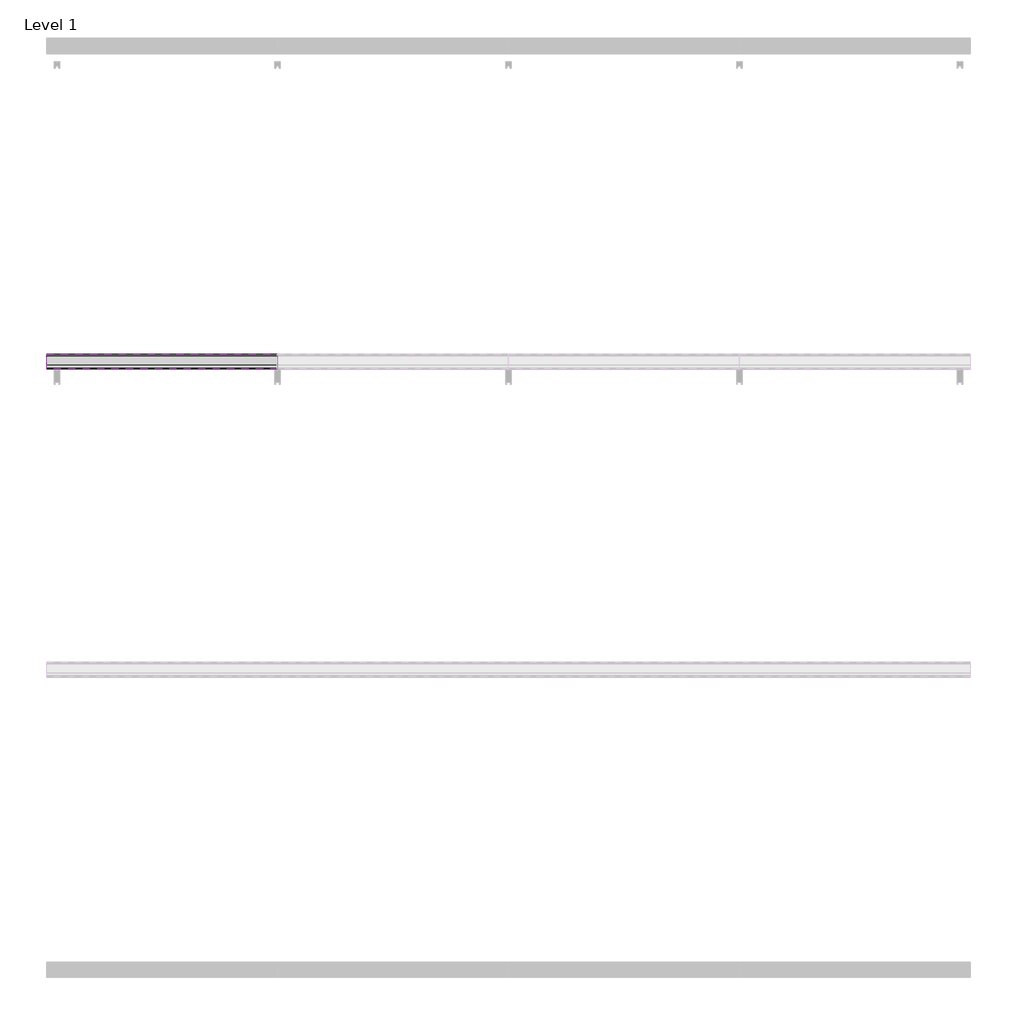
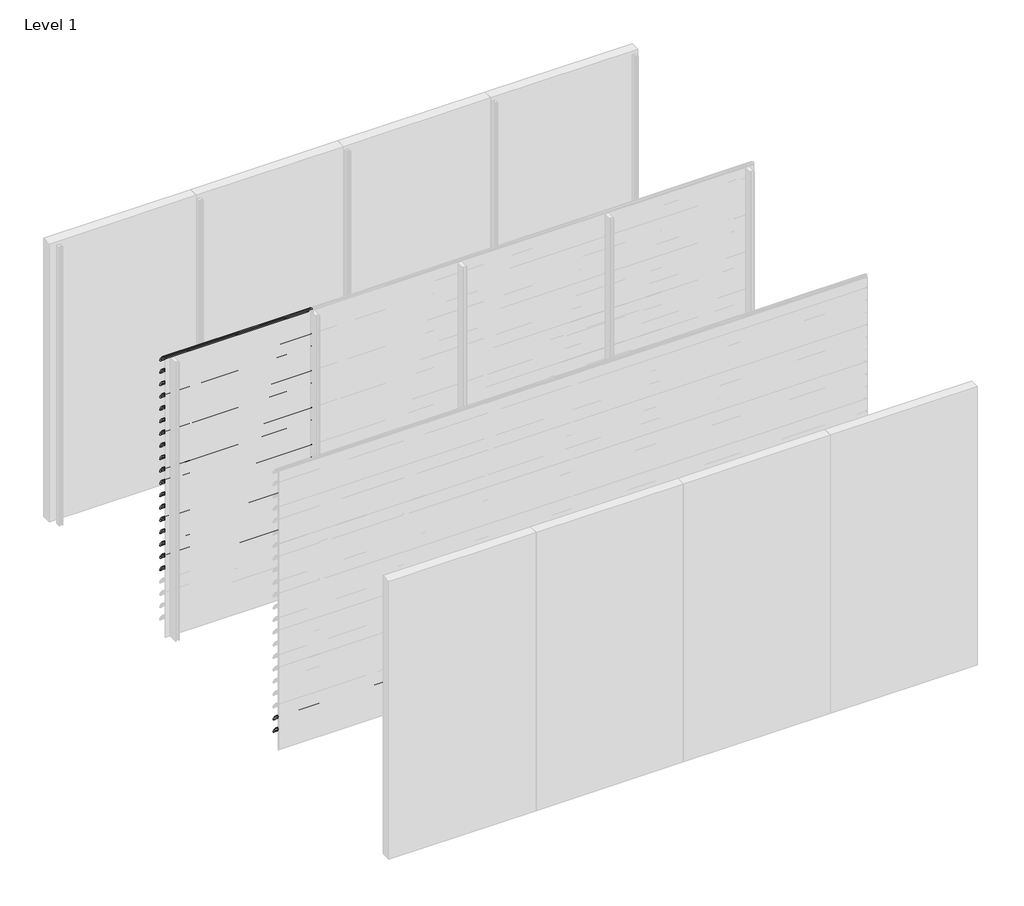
# One storey, part 37 of 57: 20 proxies.
"""IFC4 building model written with IfcOpenShell, lengths in millimetres."""

from ifc_helpers import new_model, si_unit, point, frame, frame_2d, origin, place, context, project, spatial, polyline, circle_curve, trimmed, segment, composite_curve, outline, extrude, element, save

model = new_model("IFC4")

# Units and contexts
model_context = context("Model", 3, world=origin())
ifc_project = project(units=[si_unit("LENGTHUNIT", "METRE", prefix="MILLI")], contexts=[model_context])

# Site, building, storey
site = spatial("IfcSite", under=ifc_project)
building = spatial("IfcBuilding", under=site)
storey = spatial("IfcBuildingStorey", under=building, Name="Level 1", Elevation=0.0)

# Proxies
placement = place(None, origin())
element("IfcBuildingElementProxy", 1, Name="Wall Sweeps", at=placement, inside=storey, context=model_context, shape_type="SweptSolid", body=[
    extrude(outline(composite_curve([segment(trimmed(circle_curve(frame_2d((-17993.7822526, 3016.4913792)), 4.2177474), [point((-17989.6985606, 3017.5462976))], [point((-17993.7822526, 3020.7091266))], False, "CARTESIAN"), True, "CONTINUOUS"), segment(trimmed(circle_curve(frame_2d((-18018.7150834, 2918.2536312)), 105.4456002), [point((-17993.7822526, 3020.7091266))], [point((-17971.7914298, 3012.6832099))], False, "CARTESIAN"), True, "CONTINUOUS"), segment(trimmed(circle_curve(frame_2d((-18061.7199745, 2864.0352476)), 173.7335887), [point((-17971.7914298, 3012.6832099))], [point((-17913.0720121, 2953.9637922))], False, "CARTESIAN"), True, "CONTINUOUS"), segment(trimmed(circle_curve(frame_2d((-18004.9297178, 2902.1860314)), 105.4456002), [point((-17913.0720121, 2953.9637922))], [point((-17903.6249616, 2931.4455765))], False, "CARTESIAN"), True, "CONTINUOUS"), segment(trimmed(circle_curve(frame_2d((-17907.809737, 2930.3307305)), 4.3307305), [point((-17903.6249616, 2931.4455765))], [point((-17909.0769196, 2926.189538))], False, "CARTESIAN"), True, "CONTINUOUS"), segment(polyline([(-17909.0769196, 2926.189538), (-17934.7401984, 2950.9722783)]), True, "CONTINUOUS"), segment(trimmed(circle_curve(frame_2d((-17931.3879574, 2953.2977626)), 4.079877), [point((-17934.7401984, 2950.9722783))], [point((-17930.7310597, 2957.3244091))], False, "CARTESIAN"), True, "CONTINUOUS"), segment(trimmed(circle_curve(frame_2d((-18014.6665585, 2935.2544323)), 86.7885467), [point((-17930.7310597, 2957.3244091))], [point((-17942.3028351, 2983.1683485))], True, "CARTESIAN"), True, "CONTINUOUS"), segment(polyline([(-17942.3028351, 2983.1683485), (-17940.7230099, 2985.9046861)]), True, "CONTINUOUS"), segment(trimmed(circle_curve(frame_2d((-18061.7199745, 2864.0352476)), 171.7335887), [point((-17940.7230099, 2985.9046861))], [point((-17972.7555872, 3010.9289618))], True, "CARTESIAN"), True, "CONTINUOUS"), segment(trimmed(circle_curve(frame_2d((-18018.7150834, 2918.2536312)), 103.4456002), [point((-17972.7555872, 3010.9289618))], [point((-17989.6985606, 3017.5462976))], True, "CARTESIAN"), True, "CONTINUOUS")], self_intersect=False)), frame((0.0, 0.0, 0.0), z_axis=(1.0, 0.0, 0.0), x_axis=(0.0, 1.0, 0.0)), (0.0, 0.0, 1.0), 1500.0),
])
element("IfcBuildingElementProxy", 2, Name="Wall Sweeps", at=placement, inside=storey, context=model_context, shape_type="SweptSolid", body=[
    extrude(outline(composite_curve([segment(trimmed(circle_curve(frame_2d((-17993.7822526, 2883.4913792)), 4.2177474), [point((-17989.6985606, 2884.5462976))], [point((-17993.7822526, 2887.7091266))], False, "CARTESIAN"), True, "CONTINUOUS"), segment(trimmed(circle_curve(frame_2d((-18018.7150834, 2785.2536312)), 105.4456002), [point((-17993.7822526, 2887.7091266))], [point((-17971.7914298, 2879.6832099))], False, "CARTESIAN"), True, "CONTINUOUS"), segment(trimmed(circle_curve(frame_2d((-18061.7199745, 2731.0352476)), 173.7335887), [point((-17971.7914298, 2879.6832099))], [point((-17913.0720121, 2820.9637922))], False, "CARTESIAN"), True, "CONTINUOUS"), segment(trimmed(circle_curve(frame_2d((-18004.9297178, 2769.1860314)), 105.4456002), [point((-17913.0720121, 2820.9637922))], [point((-17903.6249616, 2798.4455765))], False, "CARTESIAN"), True, "CONTINUOUS"), segment(trimmed(circle_curve(frame_2d((-17907.809737, 2797.3307305)), 4.3307305), [point((-17903.6249616, 2798.4455765))], [point((-17909.0769196, 2793.189538))], False, "CARTESIAN"), True, "CONTINUOUS"), segment(polyline([(-17909.0769196, 2793.189538), (-17934.7401984, 2817.9722783)]), True, "CONTINUOUS"), segment(trimmed(circle_curve(frame_2d((-17931.3879574, 2820.2977626)), 4.079877), [point((-17934.7401984, 2817.9722783))], [point((-17930.7310597, 2824.3244091))], False, "CARTESIAN"), True, "CONTINUOUS"), segment(trimmed(circle_curve(frame_2d((-18014.6665585, 2802.2544323)), 86.7885467), [point((-17930.7310597, 2824.3244091))], [point((-17942.3028351, 2850.1683485))], True, "CARTESIAN"), True, "CONTINUOUS"), segment(polyline([(-17942.3028351, 2850.1683485), (-17940.7230099, 2852.9046861)]), True, "CONTINUOUS"), segment(trimmed(circle_curve(frame_2d((-18061.7199745, 2731.0352476)), 171.7335887), [point((-17940.7230099, 2852.9046861))], [point((-17972.7555872, 2877.9289618))], True, "CARTESIAN"), True, "CONTINUOUS"), segment(trimmed(circle_curve(frame_2d((-18018.7150834, 2785.2536312)), 103.4456002), [point((-17972.7555872, 2877.9289618))], [point((-17989.6985606, 2884.5462976))], True, "CARTESIAN"), True, "CONTINUOUS")], self_intersect=False)), frame((0.0, 0.0, 0.0), z_axis=(1.0, 0.0, 0.0), x_axis=(0.0, 1.0, 0.0)), (0.0, 0.0, 1.0), 1500.0),
])
element("IfcBuildingElementProxy", 3, Name="Wall Sweeps", at=placement, inside=storey, context=model_context, shape_type="SweptSolid", body=[
    extrude(outline(composite_curve([segment(trimmed(circle_curve(frame_2d((-17993.7822526, 2750.4913792)), 4.2177474), [point((-17989.6985606, 2751.5462976))], [point((-17993.7822526, 2754.7091266))], False, "CARTESIAN"), True, "CONTINUOUS"), segment(trimmed(circle_curve(frame_2d((-18018.7150834, 2652.2536312)), 105.4456002), [point((-17993.7822526, 2754.7091266))], [point((-17971.7914298, 2746.6832099))], False, "CARTESIAN"), True, "CONTINUOUS"), segment(trimmed(circle_curve(frame_2d((-18061.7199745, 2598.0352476)), 173.7335887), [point((-17971.7914298, 2746.6832099))], [point((-17913.0720121, 2687.9637922))], False, "CARTESIAN"), True, "CONTINUOUS"), segment(trimmed(circle_curve(frame_2d((-18004.9297178, 2636.1860314)), 105.4456002), [point((-17913.0720121, 2687.9637922))], [point((-17903.6249616, 2665.4455765))], False, "CARTESIAN"), True, "CONTINUOUS"), segment(trimmed(circle_curve(frame_2d((-17907.809737, 2664.3307305)), 4.3307305), [point((-17903.6249616, 2665.4455765))], [point((-17909.0769196, 2660.189538))], False, "CARTESIAN"), True, "CONTINUOUS"), segment(polyline([(-17909.0769196, 2660.189538), (-17934.7401984, 2684.9722783)]), True, "CONTINUOUS"), segment(trimmed(circle_curve(frame_2d((-17931.3879574, 2687.2977626)), 4.079877), [point((-17934.7401984, 2684.9722783))], [point((-17930.7310597, 2691.3244091))], False, "CARTESIAN"), True, "CONTINUOUS"), segment(trimmed(circle_curve(frame_2d((-18014.6665585, 2669.2544323)), 86.7885467), [point((-17930.7310597, 2691.3244091))], [point((-17942.3028351, 2717.1683485))], True, "CARTESIAN"), True, "CONTINUOUS"), segment(polyline([(-17942.3028351, 2717.1683485), (-17940.7230099, 2719.9046861)]), True, "CONTINUOUS"), segment(trimmed(circle_curve(frame_2d((-18061.7199745, 2598.0352476)), 171.7335887), [point((-17940.7230099, 2719.9046861))], [point((-17972.7555872, 2744.9289618))], True, "CARTESIAN"), True, "CONTINUOUS"), segment(trimmed(circle_curve(frame_2d((-18018.7150834, 2652.2536312)), 103.4456002), [point((-17972.7555872, 2744.9289618))], [point((-17989.6985606, 2751.5462976))], True, "CARTESIAN"), True, "CONTINUOUS")], self_intersect=False)), frame((0.0, 0.0, 0.0), z_axis=(1.0, 0.0, 0.0), x_axis=(0.0, 1.0, 0.0)), (0.0, 0.0, 1.0), 1500.0),
])
element("IfcBuildingElementProxy", 4, Name="Wall Sweeps", at=placement, inside=storey, context=model_context, shape_type="SweptSolid", body=[
    extrude(outline(composite_curve([segment(trimmed(circle_curve(frame_2d((-17993.7822526, 2617.4913792)), 4.2177474), [point((-17989.6985606, 2618.5462976))], [point((-17993.7822526, 2621.7091266))], False, "CARTESIAN"), True, "CONTINUOUS"), segment(trimmed(circle_curve(frame_2d((-18018.7150834, 2519.2536312)), 105.4456002), [point((-17993.7822526, 2621.7091266))], [point((-17971.7914298, 2613.6832099))], False, "CARTESIAN"), True, "CONTINUOUS"), segment(trimmed(circle_curve(frame_2d((-18061.7199745, 2465.0352476)), 173.7335887), [point((-17971.7914298, 2613.6832099))], [point((-17913.0720121, 2554.9637922))], False, "CARTESIAN"), True, "CONTINUOUS"), segment(trimmed(circle_curve(frame_2d((-18004.9297178, 2503.1860314)), 105.4456002), [point((-17913.0720121, 2554.9637922))], [point((-17903.6249616, 2532.4455765))], False, "CARTESIAN"), True, "CONTINUOUS"), segment(trimmed(circle_curve(frame_2d((-17907.809737, 2531.3307305)), 4.3307305), [point((-17903.6249616, 2532.4455765))], [point((-17909.0769196, 2527.189538))], False, "CARTESIAN"), True, "CONTINUOUS"), segment(polyline([(-17909.0769196, 2527.189538), (-17934.7401984, 2551.9722783)]), True, "CONTINUOUS"), segment(trimmed(circle_curve(frame_2d((-17931.3879574, 2554.2977626)), 4.079877), [point((-17934.7401984, 2551.9722783))], [point((-17930.7310597, 2558.3244091))], False, "CARTESIAN"), True, "CONTINUOUS"), segment(trimmed(circle_curve(frame_2d((-18014.6665585, 2536.2544323)), 86.7885467), [point((-17930.7310597, 2558.3244091))], [point((-17942.3028351, 2584.1683485))], True, "CARTESIAN"), True, "CONTINUOUS"), segment(polyline([(-17942.3028351, 2584.1683485), (-17940.7230099, 2586.9046861)]), True, "CONTINUOUS"), segment(trimmed(circle_curve(frame_2d((-18061.7199745, 2465.0352476)), 171.7335887), [point((-17940.7230099, 2586.9046861))], [point((-17972.7555872, 2611.9289618))], True, "CARTESIAN"), True, "CONTINUOUS"), segment(trimmed(circle_curve(frame_2d((-18018.7150834, 2519.2536312)), 103.4456002), [point((-17972.7555872, 2611.9289618))], [point((-17989.6985606, 2618.5462976))], True, "CARTESIAN"), True, "CONTINUOUS")], self_intersect=False)), frame((0.0, 0.0, 0.0), z_axis=(1.0, 0.0, 0.0), x_axis=(0.0, 1.0, 0.0)), (0.0, 0.0, 1.0), 1500.0),
])
element("IfcBuildingElementProxy", 5, Name="Wall Sweeps", at=placement, inside=storey, context=model_context, shape_type="SweptSolid", body=[
    extrude(outline(composite_curve([segment(trimmed(circle_curve(frame_2d((-17993.7822526, 2484.4913792)), 4.2177474), [point((-17989.6985606, 2485.5462976))], [point((-17993.7822526, 2488.7091266))], False, "CARTESIAN"), True, "CONTINUOUS"), segment(trimmed(circle_curve(frame_2d((-18018.7150834, 2386.2536312)), 105.4456002), [point((-17993.7822526, 2488.7091266))], [point((-17971.7914298, 2480.6832099))], False, "CARTESIAN"), True, "CONTINUOUS"), segment(trimmed(circle_curve(frame_2d((-18061.7199745, 2332.0352476)), 173.7335887), [point((-17971.7914298, 2480.6832099))], [point((-17913.0720121, 2421.9637922))], False, "CARTESIAN"), True, "CONTINUOUS"), segment(trimmed(circle_curve(frame_2d((-18004.9297178, 2370.1860314)), 105.4456002), [point((-17913.0720121, 2421.9637922))], [point((-17903.6249616, 2399.4455765))], False, "CARTESIAN"), True, "CONTINUOUS"), segment(trimmed(circle_curve(frame_2d((-17907.809737, 2398.3307305)), 4.3307305), [point((-17903.6249616, 2399.4455765))], [point((-17909.0769196, 2394.189538))], False, "CARTESIAN"), True, "CONTINUOUS"), segment(polyline([(-17909.0769196, 2394.189538), (-17934.7401984, 2418.9722783)]), True, "CONTINUOUS"), segment(trimmed(circle_curve(frame_2d((-17931.3879574, 2421.2977626)), 4.079877), [point((-17934.7401984, 2418.9722783))], [point((-17930.7310597, 2425.3244091))], False, "CARTESIAN"), True, "CONTINUOUS"), segment(trimmed(circle_curve(frame_2d((-18014.6665585, 2403.2544323)), 86.7885467), [point((-17930.7310597, 2425.3244091))], [point((-17942.3028351, 2451.1683485))], True, "CARTESIAN"), True, "CONTINUOUS"), segment(polyline([(-17942.3028351, 2451.1683485), (-17940.7230099, 2453.9046861)]), True, "CONTINUOUS"), segment(trimmed(circle_curve(frame_2d((-18061.7199745, 2332.0352476)), 171.7335887), [point((-17940.7230099, 2453.9046861))], [point((-17972.7555872, 2478.9289618))], True, "CARTESIAN"), True, "CONTINUOUS"), segment(trimmed(circle_curve(frame_2d((-18018.7150834, 2386.2536312)), 103.4456002), [point((-17972.7555872, 2478.9289618))], [point((-17989.6985606, 2485.5462976))], True, "CARTESIAN"), True, "CONTINUOUS")], self_intersect=False)), frame((0.0, 0.0, 0.0), z_axis=(1.0, 0.0, 0.0), x_axis=(0.0, 1.0, 0.0)), (0.0, 0.0, 1.0), 1500.0),
])
element("IfcBuildingElementProxy", 6, Name="Wall Sweeps", at=placement, inside=storey, context=model_context, shape_type="SweptSolid", body=[
    extrude(outline(composite_curve([segment(trimmed(circle_curve(frame_2d((-17993.7822526, 2351.4913792)), 4.2177474), [point((-17989.6985606, 2352.5462976))], [point((-17993.7822526, 2355.7091266))], False, "CARTESIAN"), True, "CONTINUOUS"), segment(trimmed(circle_curve(frame_2d((-18018.7150834, 2253.2536312)), 105.4456002), [point((-17993.7822526, 2355.7091266))], [point((-17971.7914298, 2347.6832099))], False, "CARTESIAN"), True, "CONTINUOUS"), segment(trimmed(circle_curve(frame_2d((-18061.7199745, 2199.0352476)), 173.7335887), [point((-17971.7914298, 2347.6832099))], [point((-17913.0720121, 2288.9637922))], False, "CARTESIAN"), True, "CONTINUOUS"), segment(trimmed(circle_curve(frame_2d((-18004.9297178, 2237.1860314)), 105.4456002), [point((-17913.0720121, 2288.9637922))], [point((-17903.6249616, 2266.4455765))], False, "CARTESIAN"), True, "CONTINUOUS"), segment(trimmed(circle_curve(frame_2d((-17907.809737, 2265.3307305)), 4.3307305), [point((-17903.6249616, 2266.4455765))], [point((-17909.0769196, 2261.189538))], False, "CARTESIAN"), True, "CONTINUOUS"), segment(polyline([(-17909.0769196, 2261.189538), (-17934.7401984, 2285.9722783)]), True, "CONTINUOUS"), segment(trimmed(circle_curve(frame_2d((-17931.3879574, 2288.2977626)), 4.079877), [point((-17934.7401984, 2285.9722783))], [point((-17930.7310597, 2292.3244091))], False, "CARTESIAN"), True, "CONTINUOUS"), segment(trimmed(circle_curve(frame_2d((-18014.6665585, 2270.2544323)), 86.7885467), [point((-17930.7310597, 2292.3244091))], [point((-17942.3028351, 2318.1683485))], True, "CARTESIAN"), True, "CONTINUOUS"), segment(polyline([(-17942.3028351, 2318.1683485), (-17940.7230099, 2320.9046861)]), True, "CONTINUOUS"), segment(trimmed(circle_curve(frame_2d((-18061.7199745, 2199.0352476)), 171.7335887), [point((-17940.7230099, 2320.9046861))], [point((-17972.7555872, 2345.9289618))], True, "CARTESIAN"), True, "CONTINUOUS"), segment(trimmed(circle_curve(frame_2d((-18018.7150834, 2253.2536312)), 103.4456002), [point((-17972.7555872, 2345.9289618))], [point((-17989.6985606, 2352.5462976))], True, "CARTESIAN"), True, "CONTINUOUS")], self_intersect=False)), frame((0.0, 0.0, 0.0), z_axis=(1.0, 0.0, 0.0), x_axis=(0.0, 1.0, 0.0)), (0.0, 0.0, 1.0), 1500.0),
])
element("IfcBuildingElementProxy", 7, Name="Wall Sweeps", at=placement, inside=storey, context=model_context, shape_type="SweptSolid", body=[
    extrude(outline(composite_curve([segment(trimmed(circle_curve(frame_2d((-17993.7822526, 2218.4913792)), 4.2177474), [point((-17989.6985606, 2219.5462976))], [point((-17993.7822526, 2222.7091266))], False, "CARTESIAN"), True, "CONTINUOUS"), segment(trimmed(circle_curve(frame_2d((-18018.7150834, 2120.2536312)), 105.4456002), [point((-17993.7822526, 2222.7091266))], [point((-17971.7914298, 2214.6832099))], False, "CARTESIAN"), True, "CONTINUOUS"), segment(trimmed(circle_curve(frame_2d((-18061.7199745, 2066.0352476)), 173.7335887), [point((-17971.7914298, 2214.6832099))], [point((-17913.0720121, 2155.9637922))], False, "CARTESIAN"), True, "CONTINUOUS"), segment(trimmed(circle_curve(frame_2d((-18004.9297178, 2104.1860314)), 105.4456002), [point((-17913.0720121, 2155.9637922))], [point((-17903.6249616, 2133.4455765))], False, "CARTESIAN"), True, "CONTINUOUS"), segment(trimmed(circle_curve(frame_2d((-17907.809737, 2132.3307305)), 4.3307305), [point((-17903.6249616, 2133.4455765))], [point((-17909.0769196, 2128.189538))], False, "CARTESIAN"), True, "CONTINUOUS"), segment(polyline([(-17909.0769196, 2128.189538), (-17934.7401984, 2152.9722783)]), True, "CONTINUOUS"), segment(trimmed(circle_curve(frame_2d((-17931.3879574, 2155.2977626)), 4.079877), [point((-17934.7401984, 2152.9722783))], [point((-17930.7310597, 2159.3244091))], False, "CARTESIAN"), True, "CONTINUOUS"), segment(trimmed(circle_curve(frame_2d((-18014.6665585, 2137.2544323)), 86.7885467), [point((-17930.7310597, 2159.3244091))], [point((-17942.3028351, 2185.1683485))], True, "CARTESIAN"), True, "CONTINUOUS"), segment(polyline([(-17942.3028351, 2185.1683485), (-17940.7230099, 2187.9046861)]), True, "CONTINUOUS"), segment(trimmed(circle_curve(frame_2d((-18061.7199745, 2066.0352476)), 171.7335887), [point((-17940.7230099, 2187.9046861))], [point((-17972.7555872, 2212.9289618))], True, "CARTESIAN"), True, "CONTINUOUS"), segment(trimmed(circle_curve(frame_2d((-18018.7150834, 2120.2536312)), 103.4456002), [point((-17972.7555872, 2212.9289618))], [point((-17989.6985606, 2219.5462976))], True, "CARTESIAN"), True, "CONTINUOUS")], self_intersect=False)), frame((0.0, 0.0, 0.0), z_axis=(1.0, 0.0, 0.0), x_axis=(0.0, 1.0, 0.0)), (0.0, 0.0, 1.0), 1500.0),
])
element("IfcBuildingElementProxy", 8, Name="Wall Sweeps", at=placement, inside=storey, context=model_context, shape_type="SweptSolid", body=[
    extrude(outline(composite_curve([segment(trimmed(circle_curve(frame_2d((-17993.7822526, 2085.4913792)), 4.2177474), [point((-17989.6985606, 2086.5462976))], [point((-17993.7822526, 2089.7091266))], False, "CARTESIAN"), True, "CONTINUOUS"), segment(trimmed(circle_curve(frame_2d((-18018.7150834, 1987.2536312)), 105.4456002), [point((-17993.7822526, 2089.7091266))], [point((-17971.7914298, 2081.6832099))], False, "CARTESIAN"), True, "CONTINUOUS"), segment(trimmed(circle_curve(frame_2d((-18061.7199745, 1933.0352476)), 173.7335887), [point((-17971.7914298, 2081.6832099))], [point((-17913.0720121, 2022.9637922))], False, "CARTESIAN"), True, "CONTINUOUS"), segment(trimmed(circle_curve(frame_2d((-18004.9297178, 1971.1860314)), 105.4456002), [point((-17913.0720121, 2022.9637922))], [point((-17903.6249616, 2000.4455765))], False, "CARTESIAN"), True, "CONTINUOUS"), segment(trimmed(circle_curve(frame_2d((-17907.809737, 1999.3307305)), 4.3307305), [point((-17903.6249616, 2000.4455765))], [point((-17909.0769196, 1995.189538))], False, "CARTESIAN"), True, "CONTINUOUS"), segment(polyline([(-17909.0769196, 1995.189538), (-17934.7401984, 2019.9722783)]), True, "CONTINUOUS"), segment(trimmed(circle_curve(frame_2d((-17931.3879574, 2022.2977626)), 4.079877), [point((-17934.7401984, 2019.9722783))], [point((-17930.7310597, 2026.3244091))], False, "CARTESIAN"), True, "CONTINUOUS"), segment(trimmed(circle_curve(frame_2d((-18014.6665585, 2004.2544323)), 86.7885467), [point((-17930.7310597, 2026.3244091))], [point((-17942.3028351, 2052.1683485))], True, "CARTESIAN"), True, "CONTINUOUS"), segment(polyline([(-17942.3028351, 2052.1683485), (-17940.7230099, 2054.9046861)]), True, "CONTINUOUS"), segment(trimmed(circle_curve(frame_2d((-18061.7199745, 1933.0352476)), 171.7335887), [point((-17940.7230099, 2054.9046861))], [point((-17972.7555872, 2079.9289618))], True, "CARTESIAN"), True, "CONTINUOUS"), segment(trimmed(circle_curve(frame_2d((-18018.7150834, 1987.2536312)), 103.4456002), [point((-17972.7555872, 2079.9289618))], [point((-17989.6985606, 2086.5462976))], True, "CARTESIAN"), True, "CONTINUOUS")], self_intersect=False)), frame((0.0, 0.0, 0.0), z_axis=(1.0, 0.0, 0.0), x_axis=(0.0, 1.0, 0.0)), (0.0, 0.0, 1.0), 1500.0),
])
element("IfcBuildingElementProxy", 9, Name="Wall Sweeps", at=placement, inside=storey, context=model_context, shape_type="SweptSolid", body=[
    extrude(outline(composite_curve([segment(trimmed(circle_curve(frame_2d((-17993.7822526, 1952.4913792)), 4.2177474), [point((-17989.6985606, 1953.5462976))], [point((-17993.7822526, 1956.7091266))], False, "CARTESIAN"), True, "CONTINUOUS"), segment(trimmed(circle_curve(frame_2d((-18018.7150834, 1854.2536312)), 105.4456002), [point((-17993.7822526, 1956.7091266))], [point((-17971.7914298, 1948.6832099))], False, "CARTESIAN"), True, "CONTINUOUS"), segment(trimmed(circle_curve(frame_2d((-18061.7199745, 1800.0352476)), 173.7335887), [point((-17971.7914298, 1948.6832099))], [point((-17913.0720121, 1889.9637922))], False, "CARTESIAN"), True, "CONTINUOUS"), segment(trimmed(circle_curve(frame_2d((-18004.9297178, 1838.1860314)), 105.4456002), [point((-17913.0720121, 1889.9637922))], [point((-17903.6249616, 1867.4455765))], False, "CARTESIAN"), True, "CONTINUOUS"), segment(trimmed(circle_curve(frame_2d((-17907.809737, 1866.3307305)), 4.3307305), [point((-17903.6249616, 1867.4455765))], [point((-17909.0769196, 1862.189538))], False, "CARTESIAN"), True, "CONTINUOUS"), segment(polyline([(-17909.0769196, 1862.189538), (-17934.7401984, 1886.9722783)]), True, "CONTINUOUS"), segment(trimmed(circle_curve(frame_2d((-17931.3879574, 1889.2977626)), 4.079877), [point((-17934.7401984, 1886.9722783))], [point((-17930.7310597, 1893.3244091))], False, "CARTESIAN"), True, "CONTINUOUS"), segment(trimmed(circle_curve(frame_2d((-18014.6665585, 1871.2544323)), 86.7885467), [point((-17930.7310597, 1893.3244091))], [point((-17942.3028351, 1919.1683485))], True, "CARTESIAN"), True, "CONTINUOUS"), segment(polyline([(-17942.3028351, 1919.1683485), (-17940.7230099, 1921.9046861)]), True, "CONTINUOUS"), segment(trimmed(circle_curve(frame_2d((-18061.7199745, 1800.0352476)), 171.7335887), [point((-17940.7230099, 1921.9046861))], [point((-17972.7555872, 1946.9289618))], True, "CARTESIAN"), True, "CONTINUOUS"), segment(trimmed(circle_curve(frame_2d((-18018.7150834, 1854.2536312)), 103.4456002), [point((-17972.7555872, 1946.9289618))], [point((-17989.6985606, 1953.5462976))], True, "CARTESIAN"), True, "CONTINUOUS")], self_intersect=False)), frame((0.0, 0.0, 0.0), z_axis=(1.0, 0.0, 0.0), x_axis=(0.0, 1.0, 0.0)), (0.0, 0.0, 1.0), 1500.0),
])
element("IfcBuildingElementProxy", 10, Name="Wall Sweeps", at=placement, inside=storey, context=model_context, shape_type="SweptSolid", body=[
    extrude(outline(composite_curve([segment(trimmed(circle_curve(frame_2d((-17993.7822526, 1819.4913792)), 4.2177474), [point((-17989.6985606, 1820.5462976))], [point((-17993.7822526, 1823.7091266))], False, "CARTESIAN"), True, "CONTINUOUS"), segment(trimmed(circle_curve(frame_2d((-18018.7150834, 1721.2536312)), 105.4456002), [point((-17993.7822526, 1823.7091266))], [point((-17971.7914298, 1815.6832099))], False, "CARTESIAN"), True, "CONTINUOUS"), segment(trimmed(circle_curve(frame_2d((-18061.7199745, 1667.0352476)), 173.7335887), [point((-17971.7914298, 1815.6832099))], [point((-17913.0720121, 1756.9637922))], False, "CARTESIAN"), True, "CONTINUOUS"), segment(trimmed(circle_curve(frame_2d((-18004.9297178, 1705.1860314)), 105.4456002), [point((-17913.0720121, 1756.9637922))], [point((-17903.6249616, 1734.4455765))], False, "CARTESIAN"), True, "CONTINUOUS"), segment(trimmed(circle_curve(frame_2d((-17907.809737, 1733.3307305)), 4.3307305), [point((-17903.6249616, 1734.4455765))], [point((-17909.0769196, 1729.189538))], False, "CARTESIAN"), True, "CONTINUOUS"), segment(polyline([(-17909.0769196, 1729.189538), (-17934.7401984, 1753.9722783)]), True, "CONTINUOUS"), segment(trimmed(circle_curve(frame_2d((-17931.3879574, 1756.2977626)), 4.079877), [point((-17934.7401984, 1753.9722783))], [point((-17930.7310597, 1760.3244091))], False, "CARTESIAN"), True, "CONTINUOUS"), segment(trimmed(circle_curve(frame_2d((-18014.6665585, 1738.2544323)), 86.7885467), [point((-17930.7310597, 1760.3244091))], [point((-17942.3028351, 1786.1683485))], True, "CARTESIAN"), True, "CONTINUOUS"), segment(polyline([(-17942.3028351, 1786.1683485), (-17940.7230099, 1788.9046861)]), True, "CONTINUOUS"), segment(trimmed(circle_curve(frame_2d((-18061.7199745, 1667.0352476)), 171.7335887), [point((-17940.7230099, 1788.9046861))], [point((-17972.7555872, 1813.9289618))], True, "CARTESIAN"), True, "CONTINUOUS"), segment(trimmed(circle_curve(frame_2d((-18018.7150834, 1721.2536312)), 103.4456002), [point((-17972.7555872, 1813.9289618))], [point((-17989.6985606, 1820.5462976))], True, "CARTESIAN"), True, "CONTINUOUS")], self_intersect=False)), frame((0.0, 0.0, 0.0), z_axis=(1.0, 0.0, 0.0), x_axis=(0.0, 1.0, 0.0)), (0.0, 0.0, 1.0), 1500.0),
])
element("IfcBuildingElementProxy", 11, Name="Wall Sweeps", at=placement, inside=storey, context=model_context, shape_type="SweptSolid", body=[
    extrude(outline(composite_curve([segment(trimmed(circle_curve(frame_2d((-17993.7822526, 1686.4913792)), 4.2177474), [point((-17989.6985606, 1687.5462976))], [point((-17993.7822526, 1690.7091266))], False, "CARTESIAN"), True, "CONTINUOUS"), segment(trimmed(circle_curve(frame_2d((-18018.7150834, 1588.2536312)), 105.4456002), [point((-17993.7822526, 1690.7091266))], [point((-17971.7914298, 1682.6832099))], False, "CARTESIAN"), True, "CONTINUOUS"), segment(trimmed(circle_curve(frame_2d((-18061.7199745, 1534.0352476)), 173.7335887), [point((-17971.7914298, 1682.6832099))], [point((-17913.0720121, 1623.9637922))], False, "CARTESIAN"), True, "CONTINUOUS"), segment(trimmed(circle_curve(frame_2d((-18004.9297178, 1572.1860314)), 105.4456002), [point((-17913.0720121, 1623.9637922))], [point((-17903.6249616, 1601.4455765))], False, "CARTESIAN"), True, "CONTINUOUS"), segment(trimmed(circle_curve(frame_2d((-17907.809737, 1600.3307305)), 4.3307305), [point((-17903.6249616, 1601.4455765))], [point((-17909.0769196, 1596.189538))], False, "CARTESIAN"), True, "CONTINUOUS"), segment(polyline([(-17909.0769196, 1596.189538), (-17934.7401984, 1620.9722783)]), True, "CONTINUOUS"), segment(trimmed(circle_curve(frame_2d((-17931.3879574, 1623.2977626)), 4.079877), [point((-17934.7401984, 1620.9722783))], [point((-17930.7310597, 1627.3244091))], False, "CARTESIAN"), True, "CONTINUOUS"), segment(trimmed(circle_curve(frame_2d((-18014.6665585, 1605.2544323)), 86.7885467), [point((-17930.7310597, 1627.3244091))], [point((-17942.3028351, 1653.1683485))], True, "CARTESIAN"), True, "CONTINUOUS"), segment(polyline([(-17942.3028351, 1653.1683485), (-17940.7230099, 1655.9046861)]), True, "CONTINUOUS"), segment(trimmed(circle_curve(frame_2d((-18061.7199745, 1534.0352476)), 171.7335887), [point((-17940.7230099, 1655.9046861))], [point((-17972.7555872, 1680.9289618))], True, "CARTESIAN"), True, "CONTINUOUS"), segment(trimmed(circle_curve(frame_2d((-18018.7150834, 1588.2536312)), 103.4456002), [point((-17972.7555872, 1680.9289618))], [point((-17989.6985606, 1687.5462976))], True, "CARTESIAN"), True, "CONTINUOUS")], self_intersect=False)), frame((0.0, 0.0, 0.0), z_axis=(1.0, 0.0, 0.0), x_axis=(0.0, 1.0, 0.0)), (0.0, 0.0, 1.0), 1500.0),
])
element("IfcBuildingElementProxy", 12, Name="Wall Sweeps", at=placement, inside=storey, context=model_context, shape_type="SweptSolid", body=[
    extrude(outline(composite_curve([segment(trimmed(circle_curve(frame_2d((-17993.7822526, 1553.4913792)), 4.2177474), [point((-17989.6985606, 1554.5462976))], [point((-17993.7822526, 1557.7091266))], False, "CARTESIAN"), True, "CONTINUOUS"), segment(trimmed(circle_curve(frame_2d((-18018.7150834, 1455.2536312)), 105.4456002), [point((-17993.7822526, 1557.7091266))], [point((-17971.7914298, 1549.6832099))], False, "CARTESIAN"), True, "CONTINUOUS"), segment(trimmed(circle_curve(frame_2d((-18061.7199745, 1401.0352476)), 173.7335887), [point((-17971.7914298, 1549.6832099))], [point((-17913.0720121, 1490.9637922))], False, "CARTESIAN"), True, "CONTINUOUS"), segment(trimmed(circle_curve(frame_2d((-18004.9297178, 1439.1860314)), 105.4456002), [point((-17913.0720121, 1490.9637922))], [point((-17903.6249616, 1468.4455765))], False, "CARTESIAN"), True, "CONTINUOUS"), segment(trimmed(circle_curve(frame_2d((-17907.809737, 1467.3307305)), 4.3307305), [point((-17903.6249616, 1468.4455765))], [point((-17909.0769196, 1463.189538))], False, "CARTESIAN"), True, "CONTINUOUS"), segment(polyline([(-17909.0769196, 1463.189538), (-17934.7401984, 1487.9722783)]), True, "CONTINUOUS"), segment(trimmed(circle_curve(frame_2d((-17931.3879574, 1490.2977626)), 4.079877), [point((-17934.7401984, 1487.9722783))], [point((-17930.7310597, 1494.3244091))], False, "CARTESIAN"), True, "CONTINUOUS"), segment(trimmed(circle_curve(frame_2d((-18014.6665585, 1472.2544323)), 86.7885467), [point((-17930.7310597, 1494.3244091))], [point((-17942.3028351, 1520.1683485))], True, "CARTESIAN"), True, "CONTINUOUS"), segment(polyline([(-17942.3028351, 1520.1683485), (-17940.7230099, 1522.9046861)]), True, "CONTINUOUS"), segment(trimmed(circle_curve(frame_2d((-18061.7199745, 1401.0352476)), 171.7335887), [point((-17940.7230099, 1522.9046861))], [point((-17972.7555872, 1547.9289618))], True, "CARTESIAN"), True, "CONTINUOUS"), segment(trimmed(circle_curve(frame_2d((-18018.7150834, 1455.2536312)), 103.4456002), [point((-17972.7555872, 1547.9289618))], [point((-17989.6985606, 1554.5462976))], True, "CARTESIAN"), True, "CONTINUOUS")], self_intersect=False)), frame((0.0, 0.0, 0.0), z_axis=(1.0, 0.0, 0.0), x_axis=(0.0, 1.0, 0.0)), (0.0, 0.0, 1.0), 1500.0),
])
element("IfcBuildingElementProxy", 13, Name="Wall Sweeps", at=placement, inside=storey, context=model_context, shape_type="SweptSolid", body=[
    extrude(outline(composite_curve([segment(trimmed(circle_curve(frame_2d((-17993.7822526, 1420.4913792)), 4.2177474), [point((-17989.6985606, 1421.5462976))], [point((-17993.7822526, 1424.7091266))], False, "CARTESIAN"), True, "CONTINUOUS"), segment(trimmed(circle_curve(frame_2d((-18018.7150834, 1322.2536312)), 105.4456002), [point((-17993.7822526, 1424.7091266))], [point((-17971.7914298, 1416.6832099))], False, "CARTESIAN"), True, "CONTINUOUS"), segment(trimmed(circle_curve(frame_2d((-18061.7199745, 1268.0352476)), 173.7335887), [point((-17971.7914298, 1416.6832099))], [point((-17913.0720121, 1357.9637922))], False, "CARTESIAN"), True, "CONTINUOUS"), segment(trimmed(circle_curve(frame_2d((-18004.9297178, 1306.1860314)), 105.4456002), [point((-17913.0720121, 1357.9637922))], [point((-17903.6249616, 1335.4455765))], False, "CARTESIAN"), True, "CONTINUOUS"), segment(trimmed(circle_curve(frame_2d((-17907.809737, 1334.3307305)), 4.3307305), [point((-17903.6249616, 1335.4455765))], [point((-17909.0769196, 1330.189538))], False, "CARTESIAN"), True, "CONTINUOUS"), segment(polyline([(-17909.0769196, 1330.189538), (-17934.7401984, 1354.9722783)]), True, "CONTINUOUS"), segment(trimmed(circle_curve(frame_2d((-17931.3879574, 1357.2977626)), 4.079877), [point((-17934.7401984, 1354.9722783))], [point((-17930.7310597, 1361.3244091))], False, "CARTESIAN"), True, "CONTINUOUS"), segment(trimmed(circle_curve(frame_2d((-18014.6665585, 1339.2544323)), 86.7885467), [point((-17930.7310597, 1361.3244091))], [point((-17942.3028351, 1387.1683485))], True, "CARTESIAN"), True, "CONTINUOUS"), segment(polyline([(-17942.3028351, 1387.1683485), (-17940.7230099, 1389.9046861)]), True, "CONTINUOUS"), segment(trimmed(circle_curve(frame_2d((-18061.7199745, 1268.0352476)), 171.7335887), [point((-17940.7230099, 1389.9046861))], [point((-17972.7555872, 1414.9289618))], True, "CARTESIAN"), True, "CONTINUOUS"), segment(trimmed(circle_curve(frame_2d((-18018.7150834, 1322.2536312)), 103.4456002), [point((-17972.7555872, 1414.9289618))], [point((-17989.6985606, 1421.5462976))], True, "CARTESIAN"), True, "CONTINUOUS")], self_intersect=False)), frame((0.0, 0.0, 0.0), z_axis=(1.0, 0.0, 0.0), x_axis=(0.0, 1.0, 0.0)), (0.0, 0.0, 1.0), 1500.0),
])
element("IfcBuildingElementProxy", 14, Name="Wall Sweeps", at=placement, inside=storey, context=model_context, shape_type="SweptSolid", body=[
    extrude(outline(composite_curve([segment(trimmed(circle_curve(frame_2d((-17993.7822526, 1287.4913792)), 4.2177474), [point((-17989.6985606, 1288.5462976))], [point((-17993.7822526, 1291.7091266))], False, "CARTESIAN"), True, "CONTINUOUS"), segment(trimmed(circle_curve(frame_2d((-18018.7150834, 1189.2536312)), 105.4456002), [point((-17993.7822526, 1291.7091266))], [point((-17971.7914298, 1283.6832099))], False, "CARTESIAN"), True, "CONTINUOUS"), segment(trimmed(circle_curve(frame_2d((-18061.7199745, 1135.0352476)), 173.7335887), [point((-17971.7914298, 1283.6832099))], [point((-17913.0720121, 1224.9637922))], False, "CARTESIAN"), True, "CONTINUOUS"), segment(trimmed(circle_curve(frame_2d((-18004.9297178, 1173.1860314)), 105.4456002), [point((-17913.0720121, 1224.9637922))], [point((-17903.6249616, 1202.4455765))], False, "CARTESIAN"), True, "CONTINUOUS"), segment(trimmed(circle_curve(frame_2d((-17907.809737, 1201.3307305)), 4.3307305), [point((-17903.6249616, 1202.4455765))], [point((-17909.0769196, 1197.189538))], False, "CARTESIAN"), True, "CONTINUOUS"), segment(polyline([(-17909.0769196, 1197.189538), (-17934.7401984, 1221.9722783)]), True, "CONTINUOUS"), segment(trimmed(circle_curve(frame_2d((-17931.3879574, 1224.2977626)), 4.079877), [point((-17934.7401984, 1221.9722783))], [point((-17930.7310597, 1228.3244091))], False, "CARTESIAN"), True, "CONTINUOUS"), segment(trimmed(circle_curve(frame_2d((-18014.6665585, 1206.2544323)), 86.7885467), [point((-17930.7310597, 1228.3244091))], [point((-17942.3028351, 1254.1683485))], True, "CARTESIAN"), True, "CONTINUOUS"), segment(polyline([(-17942.3028351, 1254.1683485), (-17940.7230099, 1256.9046861)]), True, "CONTINUOUS"), segment(trimmed(circle_curve(frame_2d((-18061.7199745, 1135.0352476)), 171.7335887), [point((-17940.7230099, 1256.9046861))], [point((-17972.7555872, 1281.9289618))], True, "CARTESIAN"), True, "CONTINUOUS"), segment(trimmed(circle_curve(frame_2d((-18018.7150834, 1189.2536312)), 103.4456002), [point((-17972.7555872, 1281.9289618))], [point((-17989.6985606, 1288.5462976))], True, "CARTESIAN"), True, "CONTINUOUS")], self_intersect=False)), frame((0.0, 0.0, 0.0), z_axis=(1.0, 0.0, 0.0), x_axis=(0.0, 1.0, 0.0)), (0.0, 0.0, 1.0), 1500.0),
])
element("IfcBuildingElementProxy", 15, Name="Wall Sweeps", at=placement, inside=storey, context=model_context, shape_type="SweptSolid", body=[
    extrude(outline(composite_curve([segment(trimmed(circle_curve(frame_2d((-17993.7822526, 1154.4913792)), 4.2177474), [point((-17989.6985606, 1155.5462976))], [point((-17993.7822526, 1158.7091266))], False, "CARTESIAN"), True, "CONTINUOUS"), segment(trimmed(circle_curve(frame_2d((-18018.7150834, 1056.2536312)), 105.4456002), [point((-17993.7822526, 1158.7091266))], [point((-17971.7914298, 1150.6832099))], False, "CARTESIAN"), True, "CONTINUOUS"), segment(trimmed(circle_curve(frame_2d((-18061.7199745, 1002.0352476)), 173.7335887), [point((-17971.7914298, 1150.6832099))], [point((-17913.0720121, 1091.9637922))], False, "CARTESIAN"), True, "CONTINUOUS"), segment(trimmed(circle_curve(frame_2d((-18004.9297178, 1040.1860314)), 105.4456002), [point((-17913.0720121, 1091.9637922))], [point((-17903.6249616, 1069.4455765))], False, "CARTESIAN"), True, "CONTINUOUS"), segment(trimmed(circle_curve(frame_2d((-17907.809737, 1068.3307305)), 4.3307305), [point((-17903.6249616, 1069.4455765))], [point((-17909.0769196, 1064.189538))], False, "CARTESIAN"), True, "CONTINUOUS"), segment(polyline([(-17909.0769196, 1064.189538), (-17934.7401984, 1088.9722783)]), True, "CONTINUOUS"), segment(trimmed(circle_curve(frame_2d((-17931.3879574, 1091.2977626)), 4.079877), [point((-17934.7401984, 1088.9722783))], [point((-17930.7310597, 1095.3244091))], False, "CARTESIAN"), True, "CONTINUOUS"), segment(trimmed(circle_curve(frame_2d((-18014.6665585, 1073.2544323)), 86.7885467), [point((-17930.7310597, 1095.3244091))], [point((-17942.3028351, 1121.1683485))], True, "CARTESIAN"), True, "CONTINUOUS"), segment(polyline([(-17942.3028351, 1121.1683485), (-17940.7230099, 1123.9046861)]), True, "CONTINUOUS"), segment(trimmed(circle_curve(frame_2d((-18061.7199745, 1002.0352476)), 171.7335887), [point((-17940.7230099, 1123.9046861))], [point((-17972.7555872, 1148.9289618))], True, "CARTESIAN"), True, "CONTINUOUS"), segment(trimmed(circle_curve(frame_2d((-18018.7150834, 1056.2536312)), 103.4456002), [point((-17972.7555872, 1148.9289618))], [point((-17989.6985606, 1155.5462976))], True, "CARTESIAN"), True, "CONTINUOUS")], self_intersect=False)), frame((0.0, 0.0, 0.0), z_axis=(1.0, 0.0, 0.0), x_axis=(0.0, 1.0, 0.0)), (0.0, 0.0, 1.0), 1500.0),
])
element("IfcBuildingElementProxy", 16, Name="Wall Sweeps", at=placement, inside=storey, context=model_context, shape_type="SweptSolid", body=[
    extrude(outline(composite_curve([segment(trimmed(circle_curve(frame_2d((-17993.7822526, 1021.4913792)), 4.2177474), [point((-17989.6985606, 1022.5462976))], [point((-17993.7822526, 1025.7091266))], False, "CARTESIAN"), True, "CONTINUOUS"), segment(trimmed(circle_curve(frame_2d((-18018.7150834, 923.2536312)), 105.4456002), [point((-17993.7822526, 1025.7091266))], [point((-17971.7914298, 1017.6832099))], False, "CARTESIAN"), True, "CONTINUOUS"), segment(trimmed(circle_curve(frame_2d((-18061.7199745, 869.0352476)), 173.7335887), [point((-17971.7914298, 1017.6832099))], [point((-17913.0720121, 958.9637922))], False, "CARTESIAN"), True, "CONTINUOUS"), segment(trimmed(circle_curve(frame_2d((-18004.9297178, 907.1860314)), 105.4456002), [point((-17913.0720121, 958.9637922))], [point((-17903.6249616, 936.4455765))], False, "CARTESIAN"), True, "CONTINUOUS"), segment(trimmed(circle_curve(frame_2d((-17907.809737, 935.3307305)), 4.3307305), [point((-17903.6249616, 936.4455765))], [point((-17909.0769196, 931.189538))], False, "CARTESIAN"), True, "CONTINUOUS"), segment(polyline([(-17909.0769196, 931.189538), (-17934.7401984, 955.9722783)]), True, "CONTINUOUS"), segment(trimmed(circle_curve(frame_2d((-17931.3879574, 958.2977626)), 4.079877), [point((-17934.7401984, 955.9722783))], [point((-17930.7310597, 962.3244091))], False, "CARTESIAN"), True, "CONTINUOUS"), segment(trimmed(circle_curve(frame_2d((-18014.6665585, 940.2544323)), 86.7885467), [point((-17930.7310597, 962.3244091))], [point((-17942.3028351, 988.1683485))], True, "CARTESIAN"), True, "CONTINUOUS"), segment(polyline([(-17942.3028351, 988.1683485), (-17940.7230099, 990.9046861)]), True, "CONTINUOUS"), segment(trimmed(circle_curve(frame_2d((-18061.7199745, 869.0352476)), 171.7335887), [point((-17940.7230099, 990.9046861))], [point((-17972.7555872, 1015.9289618))], True, "CARTESIAN"), True, "CONTINUOUS"), segment(trimmed(circle_curve(frame_2d((-18018.7150834, 923.2536312)), 103.4456002), [point((-17972.7555872, 1015.9289618))], [point((-17989.6985606, 1022.5462976))], True, "CARTESIAN"), True, "CONTINUOUS")], self_intersect=False)), frame((0.0, 0.0, 0.0), z_axis=(1.0, 0.0, 0.0), x_axis=(0.0, 1.0, 0.0)), (0.0, 0.0, 1.0), 1500.0),
])
element("IfcBuildingElementProxy", 17, Name="Wall Sweeps", at=placement, inside=storey, context=model_context, shape_type="SweptSolid", body=[
    extrude(outline(composite_curve([segment(trimmed(circle_curve(frame_2d((-17993.7822526, 888.4913792)), 4.2177474), [point((-17989.6985606, 889.5462976))], [point((-17993.7822526, 892.7091266))], False, "CARTESIAN"), True, "CONTINUOUS"), segment(trimmed(circle_curve(frame_2d((-18018.7150834, 790.2536312)), 105.4456002), [point((-17993.7822526, 892.7091266))], [point((-17971.7914298, 884.6832099))], False, "CARTESIAN"), True, "CONTINUOUS"), segment(trimmed(circle_curve(frame_2d((-18061.7199745, 736.0352476)), 173.7335887), [point((-17971.7914298, 884.6832099))], [point((-17913.0720121, 825.9637922))], False, "CARTESIAN"), True, "CONTINUOUS"), segment(trimmed(circle_curve(frame_2d((-18004.9297178, 774.1860314)), 105.4456002), [point((-17913.0720121, 825.9637922))], [point((-17903.6249616, 803.4455765))], False, "CARTESIAN"), True, "CONTINUOUS"), segment(trimmed(circle_curve(frame_2d((-17907.809737, 802.3307305)), 4.3307305), [point((-17903.6249616, 803.4455765))], [point((-17909.0769196, 798.189538))], False, "CARTESIAN"), True, "CONTINUOUS"), segment(polyline([(-17909.0769196, 798.189538), (-17934.7401984, 822.9722783)]), True, "CONTINUOUS"), segment(trimmed(circle_curve(frame_2d((-17931.3879574, 825.2977626)), 4.079877), [point((-17934.7401984, 822.9722783))], [point((-17930.7310597, 829.3244091))], False, "CARTESIAN"), True, "CONTINUOUS"), segment(trimmed(circle_curve(frame_2d((-18014.6665585, 807.2544323)), 86.7885467), [point((-17930.7310597, 829.3244091))], [point((-17942.3028351, 855.1683485))], True, "CARTESIAN"), True, "CONTINUOUS"), segment(polyline([(-17942.3028351, 855.1683485), (-17940.7230099, 857.9046861)]), True, "CONTINUOUS"), segment(trimmed(circle_curve(frame_2d((-18061.7199745, 736.0352476)), 171.7335887), [point((-17940.7230099, 857.9046861))], [point((-17972.7555872, 882.9289618))], True, "CARTESIAN"), True, "CONTINUOUS"), segment(trimmed(circle_curve(frame_2d((-18018.7150834, 790.2536312)), 103.4456002), [point((-17972.7555872, 882.9289618))], [point((-17989.6985606, 889.5462976))], True, "CARTESIAN"), True, "CONTINUOUS")], self_intersect=False)), frame((0.0, 0.0, 0.0), z_axis=(1.0, 0.0, 0.0), x_axis=(0.0, 1.0, 0.0)), (0.0, 0.0, 1.0), 1500.0),
])
element("IfcBuildingElementProxy", 18, Name="Wall Sweeps", at=placement, inside=storey, context=model_context, shape_type="SweptSolid", body=[
    extrude(outline(composite_curve([segment(trimmed(circle_curve(frame_2d((-17993.7822526, 755.4913792)), 4.2177474), [point((-17989.6985606, 756.5462976))], [point((-17993.7822526, 759.7091266))], False, "CARTESIAN"), True, "CONTINUOUS"), segment(trimmed(circle_curve(frame_2d((-18018.7150834, 657.2536312)), 105.4456002), [point((-17993.7822526, 759.7091266))], [point((-17971.7914298, 751.6832099))], False, "CARTESIAN"), True, "CONTINUOUS"), segment(trimmed(circle_curve(frame_2d((-18061.7199745, 603.0352476)), 173.7335887), [point((-17971.7914298, 751.6832099))], [point((-17913.0720121, 692.9637922))], False, "CARTESIAN"), True, "CONTINUOUS"), segment(trimmed(circle_curve(frame_2d((-18004.9297178, 641.1860314)), 105.4456002), [point((-17913.0720121, 692.9637922))], [point((-17903.6249616, 670.4455765))], False, "CARTESIAN"), True, "CONTINUOUS"), segment(trimmed(circle_curve(frame_2d((-17907.809737, 669.3307305)), 4.3307305), [point((-17903.6249616, 670.4455765))], [point((-17909.0769196, 665.189538))], False, "CARTESIAN"), True, "CONTINUOUS"), segment(polyline([(-17909.0769196, 665.189538), (-17934.7401984, 689.9722783)]), True, "CONTINUOUS"), segment(trimmed(circle_curve(frame_2d((-17931.3879574, 692.2977626)), 4.079877), [point((-17934.7401984, 689.9722783))], [point((-17930.7310597, 696.3244091))], False, "CARTESIAN"), True, "CONTINUOUS"), segment(trimmed(circle_curve(frame_2d((-18014.6665585, 674.2544323)), 86.7885467), [point((-17930.7310597, 696.3244091))], [point((-17942.3028351, 722.1683485))], True, "CARTESIAN"), True, "CONTINUOUS"), segment(polyline([(-17942.3028351, 722.1683485), (-17940.7230099, 724.9046861)]), True, "CONTINUOUS"), segment(trimmed(circle_curve(frame_2d((-18061.7199745, 603.0352476)), 171.7335887), [point((-17940.7230099, 724.9046861))], [point((-17972.7555872, 749.9289618))], True, "CARTESIAN"), True, "CONTINUOUS"), segment(trimmed(circle_curve(frame_2d((-18018.7150834, 657.2536312)), 103.4456002), [point((-17972.7555872, 749.9289618))], [point((-17989.6985606, 756.5462976))], True, "CARTESIAN"), True, "CONTINUOUS")], self_intersect=False)), frame((0.0, 0.0, 0.0), z_axis=(1.0, 0.0, 0.0), x_axis=(0.0, 1.0, 0.0)), (0.0, 0.0, 1.0), 1500.0),
])
element("IfcBuildingElementProxy", 19, Name="Wall Sweeps", at=placement, inside=storey, context=model_context, shape_type="SweptSolid", body=[
    extrude(outline(composite_curve([segment(trimmed(circle_curve(frame_2d((-19993.7822526, 356.4913792)), 4.2177474), [point((-19989.6985606, 357.5462976))], [point((-19993.7822526, 360.7091266))], False, "CARTESIAN"), True, "CONTINUOUS"), segment(trimmed(circle_curve(frame_2d((-20018.7150834, 258.2536312)), 105.4456002), [point((-19993.7822526, 360.7091266))], [point((-19971.7914298, 352.6832099))], False, "CARTESIAN"), True, "CONTINUOUS"), segment(trimmed(circle_curve(frame_2d((-20061.7199745, 204.0352476)), 173.7335887), [point((-19971.7914298, 352.6832099))], [point((-19913.0720121, 293.9637922))], False, "CARTESIAN"), True, "CONTINUOUS"), segment(trimmed(circle_curve(frame_2d((-20004.9297178, 242.1860314)), 105.4456002), [point((-19913.0720121, 293.9637922))], [point((-19903.6249616, 271.4455765))], False, "CARTESIAN"), True, "CONTINUOUS"), segment(trimmed(circle_curve(frame_2d((-19907.809737, 270.3307305)), 4.3307305), [point((-19903.6249616, 271.4455765))], [point((-19909.0769196, 266.189538))], False, "CARTESIAN"), True, "CONTINUOUS"), segment(polyline([(-19909.0769196, 266.189538), (-19934.7401984, 290.9722783)]), True, "CONTINUOUS"), segment(trimmed(circle_curve(frame_2d((-19931.3879574, 293.2977626)), 4.079877), [point((-19934.7401984, 290.9722783))], [point((-19930.7310597, 297.3244091))], False, "CARTESIAN"), True, "CONTINUOUS"), segment(trimmed(circle_curve(frame_2d((-20014.6665585, 275.2544323)), 86.7885467), [point((-19930.7310597, 297.3244091))], [point((-19942.3028351, 323.1683485))], True, "CARTESIAN"), True, "CONTINUOUS"), segment(polyline([(-19942.3028351, 323.1683485), (-19940.7230099, 325.9046861)]), True, "CONTINUOUS"), segment(trimmed(circle_curve(frame_2d((-20061.7199745, 204.0352476)), 171.7335887), [point((-19940.7230099, 325.9046861))], [point((-19972.7555872, 350.9289618))], True, "CARTESIAN"), True, "CONTINUOUS"), segment(trimmed(circle_curve(frame_2d((-20018.7150834, 258.2536312)), 103.4456002), [point((-19972.7555872, 350.9289618))], [point((-19989.6985606, 357.5462976))], True, "CARTESIAN"), True, "CONTINUOUS")], self_intersect=False)), frame((0.0, 0.0, 0.0), z_axis=(1.0, 0.0, 0.0), x_axis=(0.0, 1.0, 0.0)), (0.0, 0.0, 1.0), 6000.0),
])
element("IfcBuildingElementProxy", 20, Name="Wall Sweeps", at=placement, inside=storey, context=model_context, shape_type="SweptSolid", body=[
    extrude(outline(composite_curve([segment(trimmed(circle_curve(frame_2d((-19993.7822526, 223.4913792)), 4.2177474), [point((-19989.6985606, 224.5462976))], [point((-19993.7822526, 227.7091266))], False, "CARTESIAN"), True, "CONTINUOUS"), segment(trimmed(circle_curve(frame_2d((-20018.7150834, 125.2536312)), 105.4456002), [point((-19993.7822526, 227.7091266))], [point((-19971.7914298, 219.6832099))], False, "CARTESIAN"), True, "CONTINUOUS"), segment(trimmed(circle_curve(frame_2d((-20061.7199745, 71.0352476)), 173.7335887), [point((-19971.7914298, 219.6832099))], [point((-19913.0720121, 160.9637922))], False, "CARTESIAN"), True, "CONTINUOUS"), segment(trimmed(circle_curve(frame_2d((-20004.9297178, 109.1860314)), 105.4456002), [point((-19913.0720121, 160.9637922))], [point((-19903.6249616, 138.4455765))], False, "CARTESIAN"), True, "CONTINUOUS"), segment(trimmed(circle_curve(frame_2d((-19907.809737, 137.3307305)), 4.3307305), [point((-19903.6249616, 138.4455765))], [point((-19909.0769196, 133.189538))], False, "CARTESIAN"), True, "CONTINUOUS"), segment(polyline([(-19909.0769196, 133.189538), (-19934.7401984, 157.9722783)]), True, "CONTINUOUS"), segment(trimmed(circle_curve(frame_2d((-19931.3879574, 160.2977626)), 4.079877), [point((-19934.7401984, 157.9722783))], [point((-19930.7310597, 164.3244091))], False, "CARTESIAN"), True, "CONTINUOUS"), segment(trimmed(circle_curve(frame_2d((-20014.6665585, 142.2544323)), 86.7885467), [point((-19930.7310597, 164.3244091))], [point((-19942.3028351, 190.1683485))], True, "CARTESIAN"), True, "CONTINUOUS"), segment(polyline([(-19942.3028351, 190.1683485), (-19940.7230099, 192.9046861)]), True, "CONTINUOUS"), segment(trimmed(circle_curve(frame_2d((-20061.7199745, 71.0352476)), 171.7335887), [point((-19940.7230099, 192.9046861))], [point((-19972.7555872, 217.9289618))], True, "CARTESIAN"), True, "CONTINUOUS"), segment(trimmed(circle_curve(frame_2d((-20018.7150834, 125.2536312)), 103.4456002), [point((-19972.7555872, 217.9289618))], [point((-19989.6985606, 224.5462976))], True, "CARTESIAN"), True, "CONTINUOUS")], self_intersect=False)), frame((0.0, 0.0, 0.0), z_axis=(1.0, 0.0, 0.0), x_axis=(0.0, 1.0, 0.0)), (0.0, 0.0, 1.0), 6000.0),
])

save(model, "model.ifc")
